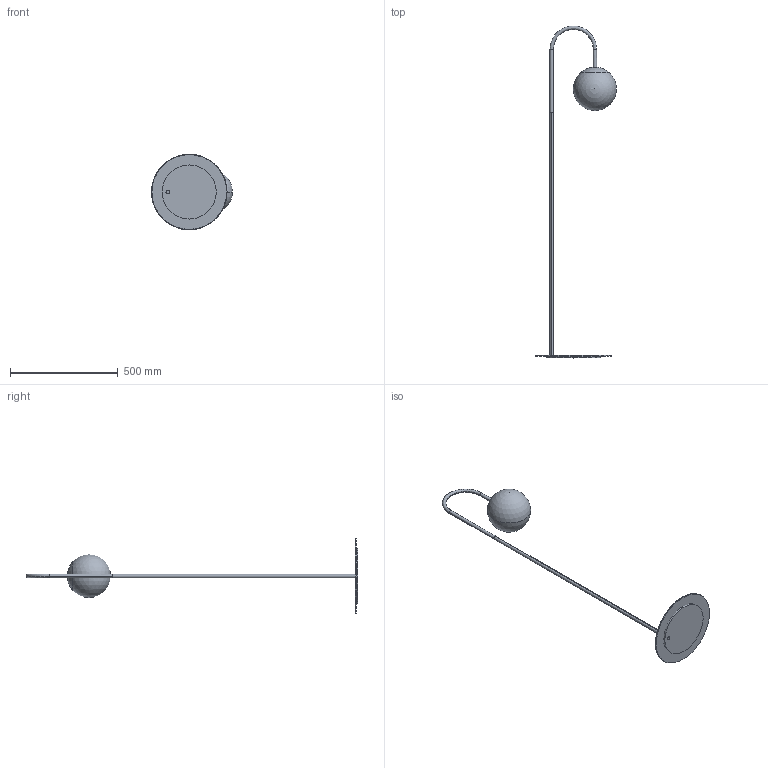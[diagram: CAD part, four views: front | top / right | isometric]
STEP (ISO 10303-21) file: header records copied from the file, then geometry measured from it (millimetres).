
FILE_DESCRIPTION (( 'STEP AP203' ), '1' );
FILE_NAME ('DECL1_Decor terra.STEP', '2024-08-06T08:39:19', ( '' ), ( '' ), 'SwSTEP 2.0', 'SolidWorks 2022', '' );
FILE_SCHEMA (( 'CONFIG_CONTROL_DESIGN' ));
Length unit declared in the file: millimetre
Products named in the file (2): DECOR TERRA1 aggiornata; DECL1_Decor terra
Assembly tree (1 placements, depth 2):
  DECL1_Decor terra
    DECOR TERRA1 aggiornata
Bounding box: 375.22 x 1538.34 x 350 mm (x, y, z)
Surface area: 552595.6 mm2 (no closed solid volume)
Topology: 0 solids, 7 shells, 34 faces, 69 edges, 45 vertices
Faces by surface type: cylinder 10, plane 9, bspline 8, sphere 4, cone 3
Entity records: 1771 total; most frequent: CARTESIAN_POINT 946, DIRECTION 137, ORIENTED_EDGE 124, EDGE_CURVE 64, AXIS2_PLACEMENT_3D 61, VERTEX_POINT 42, EDGE_LOOP 36, FACE_OUTER_BOUND 34
